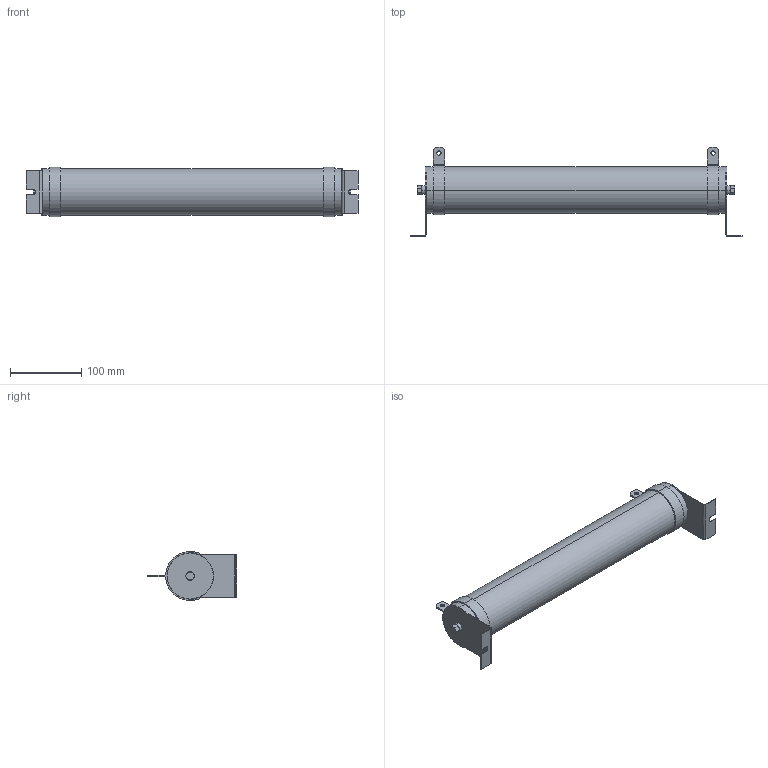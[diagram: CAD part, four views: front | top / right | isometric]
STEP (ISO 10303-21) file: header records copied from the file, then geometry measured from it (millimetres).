
FILE_DESCRIPTION (( 'STEP AP203' ), '1' );
FILE_NAME ('IRT-75-1200.STEP', '2022-11-16T11:55:31', ( '' ), ( '' ), 'SwSTEP 2.0', 'SolidWorks 2018', '' );
FILE_SCHEMA (( 'CONFIG_CONTROL_DESIGN' ));
Length unit declared in the file: millimetre
Products named in the file (1): IRT-75-1200
Bounding box: 465 x 125 x 69 mm (x, y, z)
Volume: 1424399.5 mm3; surface area: 111582.1 mm2
Topology: 1 solids, 1 shells, 106 faces, 258 edges, 164 vertices
Faces by surface type: plane 60, cylinder 46
Entity records: 3199 total; most frequent: DIRECTION 576, CARTESIAN_POINT 529, ORIENTED_EDGE 516, EDGE_CURVE 258, AXIS2_PLACEMENT_3D 211, VERTEX_POINT 164, LINE 154, VECTOR 154
